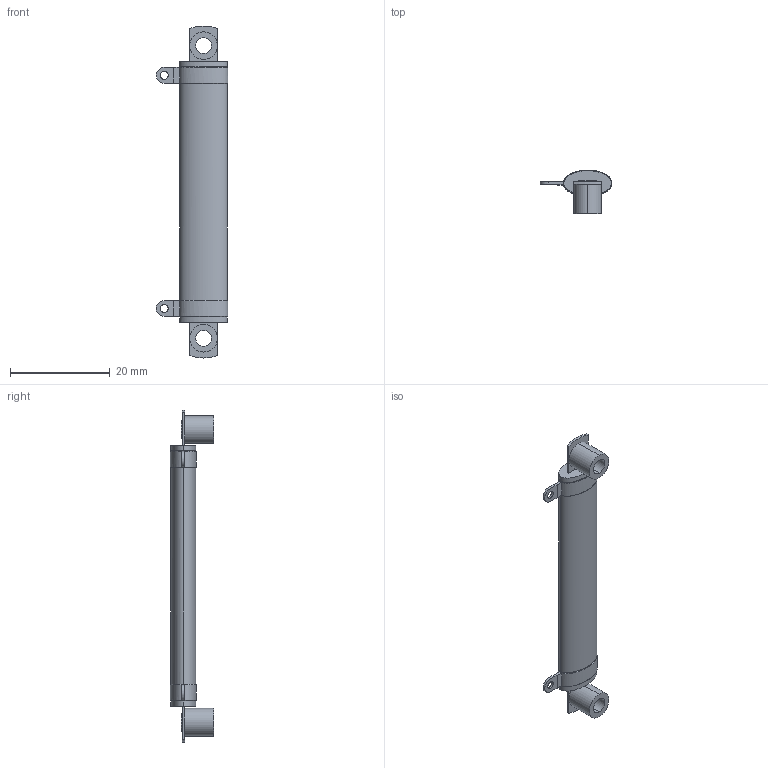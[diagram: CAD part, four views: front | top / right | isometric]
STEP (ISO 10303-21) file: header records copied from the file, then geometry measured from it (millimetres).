
FILE_DESCRIPTION (( 'STEP AP214' ), '1' );
FILE_NAME ('HLM020.STEP', '2014-03-13T13:36:26', ( '' ), ( '' ), 'SwSTEP 2.0', 'SolidWorks 2012', '' );
FILE_SCHEMA (( 'AUTOMOTIVE_DESIGN' ));
Length unit declared in the file: millimetre
Products named in the file (1): HLM020
Bounding box: 14.38 x 8.71 x 66.66 mm (x, y, z)
Volume: 2206.7 mm3; surface area: 1844.1 mm2
Topology: 1 solids, 1 shells, 71 faces, 177 edges, 116 vertices
Faces by surface type: plane 32, cylinder 21, bspline 18
Entity records: 9323 total; most frequent: CARTESIAN_POINT 7133, ORIENTED_EDGE 354, DIRECTION 279, EDGE_CURVE 177, VERTEX_POINT 116, AXIS2_PLACEMENT_3D 100, EDGE_LOOP 87, LINE 79
